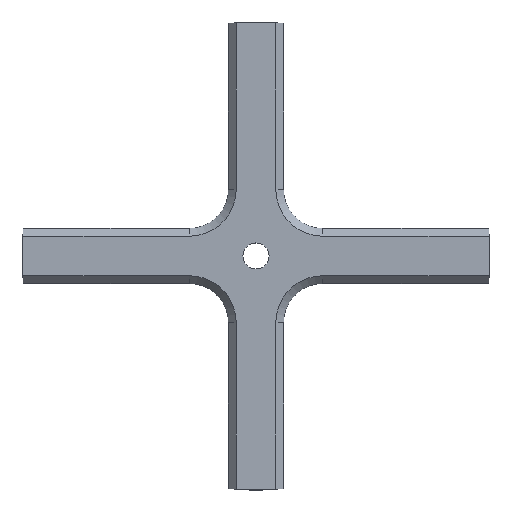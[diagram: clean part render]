
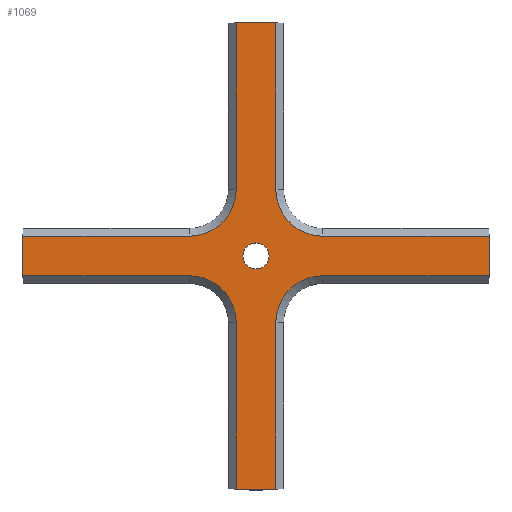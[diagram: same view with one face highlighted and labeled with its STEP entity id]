
A CAD part, top view. The second image highlights one B-rep face of the part: STEP entity #1069.
In plain terms, the highlighted planar face has unit normal (0, 0, 1).
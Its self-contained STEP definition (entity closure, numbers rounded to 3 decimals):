
#18=FACE_BOUND('',#169,.T.);
#32=CIRCLE('',#1125,90.);
#37=CIRCLE('',#1137,18.);
#42=CIRCLE('',#1155,90.);
#45=CIRCLE('',#1162,18.);
#50=CIRCLE('',#1178,90.);
#53=CIRCLE('',#1184,18.);
#54=CIRCLE('',#1187,90.);
#55=CIRCLE('',#1188,18.);
#56=CIRCLE('',#1189,5.);
#102=FACE_OUTER_BOUND('',#168,.T.);
#168=EDGE_LOOP('',(#827,#828,#829,#830,#831,#832,#833,#834,#835,#836,#837,
#838,#839,#840,#841,#842));
#169=EDGE_LOOP('',(#843));
#220=LINE('',#1621,#325);
#222=LINE('',#1629,#327);
#239=LINE('',#1690,#344);
#241=LINE('',#1696,#346);
#257=LINE('',#1750,#362);
#259=LINE('',#1756,#364);
#260=LINE('',#1760,#365);
#261=LINE('',#1763,#366);
#325=VECTOR('',#1287,10.);
#327=VECTOR('',#1297,10.);
#344=VECTOR('',#1356,10.);
#346=VECTOR('',#1364,10.);
#362=VECTOR('',#1418,10.);
#364=VECTOR('',#1426,10.);
#365=VECTOR('',#1431,10.);
#366=VECTOR('',#1434,10.);
#439=VERTEX_POINT('',#1587);
#440=VERTEX_POINT('',#1589);
#451=VERTEX_POINT('',#1619);
#452=VERTEX_POINT('',#1623);
#453=VERTEX_POINT('',#1627);
#469=VERTEX_POINT('',#1672);
#470=VERTEX_POINT('',#1674);
#475=VERTEX_POINT('',#1686);
#476=VERTEX_POINT('',#1688);
#477=VERTEX_POINT('',#1692);
#490=VERTEX_POINT('',#1734);
#491=VERTEX_POINT('',#1736);
#496=VERTEX_POINT('',#1748);
#497=VERTEX_POINT('',#1752);
#498=VERTEX_POINT('',#1759);
#499=VERTEX_POINT('',#1761);
#500=VERTEX_POINT('',#1764);
#540=EDGE_CURVE('',#440,#439,#32,.T.);
#556=EDGE_CURVE('',#451,#439,#220,.T.);
#558=EDGE_CURVE('',#452,#451,#37,.T.);
#560=EDGE_CURVE('',#453,#452,#222,.T.);
#582=EDGE_CURVE('',#470,#469,#42,.T.);
#590=EDGE_CURVE('',#476,#475,#239,.T.);
#592=EDGE_CURVE('',#477,#476,#45,.T.);
#593=EDGE_CURVE('',#470,#477,#241,.T.);
#613=EDGE_CURVE('',#491,#490,#50,.T.);
#620=EDGE_CURVE('',#496,#469,#257,.T.);
#622=EDGE_CURVE('',#497,#496,#53,.T.);
#623=EDGE_CURVE('',#491,#497,#259,.T.);
#624=EDGE_CURVE('',#453,#475,#54,.T.);
#625=EDGE_CURVE('',#498,#490,#260,.T.);
#626=EDGE_CURVE('',#499,#498,#55,.T.);
#627=EDGE_CURVE('',#440,#499,#261,.T.);
#628=EDGE_CURVE('',#500,#500,#56,.T.);
#827=ORIENTED_EDGE('',*,*,#560,.F.);
#828=ORIENTED_EDGE('',*,*,#624,.T.);
#829=ORIENTED_EDGE('',*,*,#590,.F.);
#830=ORIENTED_EDGE('',*,*,#592,.F.);
#831=ORIENTED_EDGE('',*,*,#593,.F.);
#832=ORIENTED_EDGE('',*,*,#582,.T.);
#833=ORIENTED_EDGE('',*,*,#620,.F.);
#834=ORIENTED_EDGE('',*,*,#622,.F.);
#835=ORIENTED_EDGE('',*,*,#623,.F.);
#836=ORIENTED_EDGE('',*,*,#613,.T.);
#837=ORIENTED_EDGE('',*,*,#625,.F.);
#838=ORIENTED_EDGE('',*,*,#626,.F.);
#839=ORIENTED_EDGE('',*,*,#627,.F.);
#840=ORIENTED_EDGE('',*,*,#540,.T.);
#841=ORIENTED_EDGE('',*,*,#556,.F.);
#842=ORIENTED_EDGE('',*,*,#558,.F.);
#843=ORIENTED_EDGE('',*,*,#628,.T.);
#1011=PLANE('',#1186);
#1069=ADVANCED_FACE('',(#102,#18),#1011,.T.);
#1125=AXIS2_PLACEMENT_3D('',#1590,#1256,#1257);
#1137=AXIS2_PLACEMENT_3D('',#1625,#1291,#1292);
#1155=AXIS2_PLACEMENT_3D('',#1675,#1341,#1342);
#1162=AXIS2_PLACEMENT_3D('',#1694,#1360,#1361);
#1178=AXIS2_PLACEMENT_3D('',#1737,#1405,#1406);
#1184=AXIS2_PLACEMENT_3D('',#1754,#1422,#1423);
#1186=AXIS2_PLACEMENT_3D('',#1757,#1427,#1428);
#1187=AXIS2_PLACEMENT_3D('',#1758,#1429,#1430);
#1188=AXIS2_PLACEMENT_3D('',#1762,#1432,#1433);
#1189=AXIS2_PLACEMENT_3D('',#1765,#1435,#1436);
#1256=DIRECTION('center_axis',(0.,0.,1.));
#1257=DIRECTION('ref_axis',(1.,0.,0.));
#1287=DIRECTION('',(1.,0.,0.));
#1291=DIRECTION('center_axis',(0.,0.,1.));
#1292=DIRECTION('ref_axis',(-0.707,-0.707,0.));
#1297=DIRECTION('',(0.,-1.,0.));
#1341=DIRECTION('center_axis',(0.,0.,1.));
#1342=DIRECTION('ref_axis',(1.,0.,0.));
#1356=DIRECTION('',(0.,1.,0.));
#1360=DIRECTION('center_axis',(0.,0.,1.));
#1361=DIRECTION('ref_axis',(0.707,-0.707,0.));
#1364=DIRECTION('',(1.,0.,0.));
#1405=DIRECTION('center_axis',(0.,0.,1.));
#1406=DIRECTION('ref_axis',(1.,0.,0.));
#1418=DIRECTION('',(-1.,0.,0.));
#1422=DIRECTION('center_axis',(0.,0.,1.));
#1423=DIRECTION('ref_axis',(0.707,0.707,0.));
#1426=DIRECTION('',(0.,1.,0.));
#1427=DIRECTION('center_axis',(0.,0.,1.));
#1428=DIRECTION('ref_axis',(1.,0.,0.));
#1429=DIRECTION('center_axis',(0.,0.,1.));
#1430=DIRECTION('ref_axis',(1.,0.,0.));
#1431=DIRECTION('',(0.,-1.,0.));
#1432=DIRECTION('center_axis',(0.,0.,1.));
#1433=DIRECTION('ref_axis',(-0.707,0.707,0.));
#1434=DIRECTION('',(-1.,0.,0.));
#1435=DIRECTION('center_axis',(0.,0.,-1.));
#1436=DIRECTION('ref_axis',(1.,0.,0.));
#1587=CARTESIAN_POINT('',(89.678,7.607,10.));
#1589=CARTESIAN_POINT('',(89.678,-7.607,10.));
#1590=CARTESIAN_POINT('Origin',(0.,0.,10.));
#1619=CARTESIAN_POINT('',(25.607,7.607,10.));
#1621=CARTESIAN_POINT('',(44.686,7.607,10.));
#1623=CARTESIAN_POINT('',(7.607,25.607,10.));
#1625=CARTESIAN_POINT('Origin',(25.607,25.607,10.));
#1627=CARTESIAN_POINT('',(7.607,89.678,10.));
#1629=CARTESIAN_POINT('',(7.607,5.303,10.));
#1672=CARTESIAN_POINT('',(-89.678,-7.607,10.));
#1674=CARTESIAN_POINT('',(-89.678,7.607,10.));
#1675=CARTESIAN_POINT('Origin',(0.,0.,10.));
#1686=CARTESIAN_POINT('',(-7.607,89.678,10.));
#1688=CARTESIAN_POINT('',(-7.607,25.607,10.));
#1690=CARTESIAN_POINT('',(-7.607,44.686,10.));
#1692=CARTESIAN_POINT('',(-25.607,7.607,10.));
#1694=CARTESIAN_POINT('Origin',(-25.607,25.607,10.));
#1696=CARTESIAN_POINT('',(-5.303,7.607,10.));
#1734=CARTESIAN_POINT('',(7.607,-89.678,10.));
#1736=CARTESIAN_POINT('',(-7.607,-89.678,10.));
#1737=CARTESIAN_POINT('Origin',(0.,0.,10.));
#1748=CARTESIAN_POINT('',(-25.607,-7.607,10.));
#1750=CARTESIAN_POINT('',(-44.686,-7.607,10.));
#1752=CARTESIAN_POINT('',(-7.607,-25.607,10.));
#1754=CARTESIAN_POINT('Origin',(-25.607,-25.607,10.));
#1756=CARTESIAN_POINT('',(-7.607,-5.303,10.));
#1757=CARTESIAN_POINT('Origin',(0.,0.,10.));
#1758=CARTESIAN_POINT('Origin',(0.,0.,10.));
#1759=CARTESIAN_POINT('',(7.607,-25.607,10.));
#1760=CARTESIAN_POINT('',(7.607,-44.686,10.));
#1761=CARTESIAN_POINT('',(25.607,-7.607,10.));
#1762=CARTESIAN_POINT('Origin',(25.607,-25.607,10.));
#1763=CARTESIAN_POINT('',(5.303,-7.607,10.));
#1764=CARTESIAN_POINT('',(-5.,0.,10.));
#1765=CARTESIAN_POINT('Origin',(0.,0.,10.));
